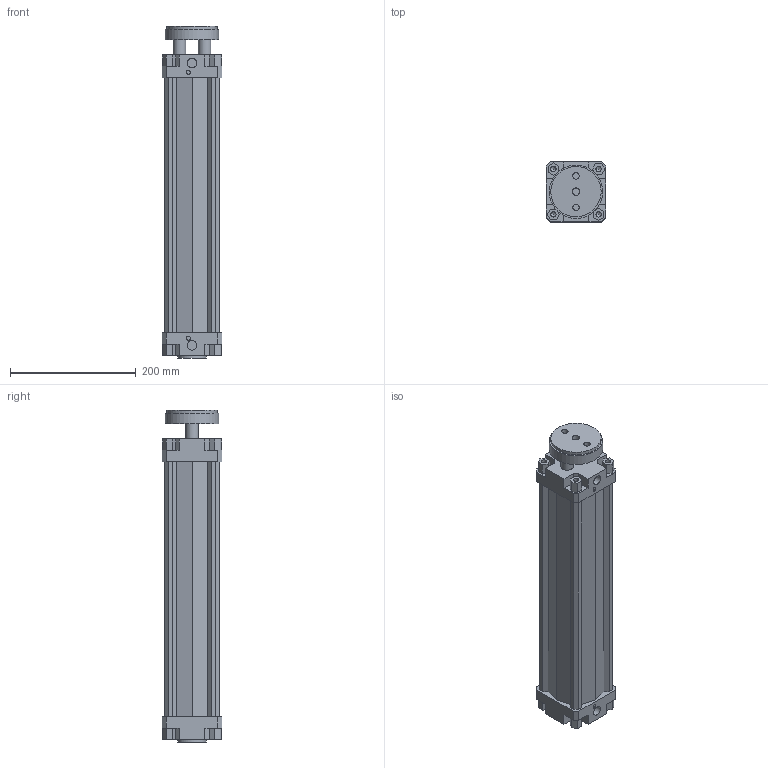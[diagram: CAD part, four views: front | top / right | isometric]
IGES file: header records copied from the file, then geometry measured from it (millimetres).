
Global section: file name: 132#_080_0350_01; native system: Autodesk Inventor 2014; preprocessor: unknown; author: A. Manieri; date: 20161006.162439; units: millimetre
Bounding box: 95 x 95 x 528 mm (x, y, z)
Volume: 1967356.4 mm3; surface area: 419061.7 mm2
Topology: 2 solids, 2 shells, 180 faces, 491 edges, 335 vertices
Faces by surface type: bspline 180
